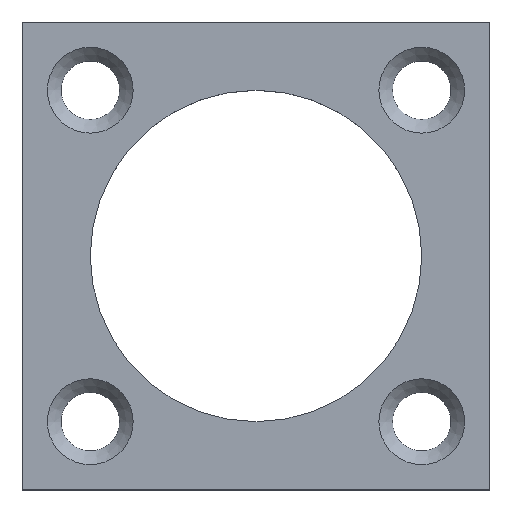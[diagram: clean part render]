
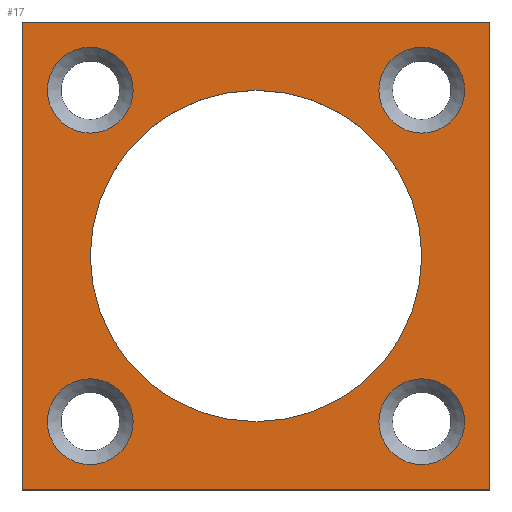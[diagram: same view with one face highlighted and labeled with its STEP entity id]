
A CAD part, top view. The second image highlights one B-rep face of the part: STEP entity #17.
In plain terms, the highlighted planar face has unit normal (0, 0, 1).
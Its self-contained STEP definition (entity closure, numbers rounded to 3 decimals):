
#17 = ADVANCED_FACE('',(#18,#29,#63,#74,#85,#96),#107,.T.);
#18 = FACE_BOUND('',#19,.T.);
#19 = EDGE_LOOP('',(#20));
#20 = ORIENTED_EDGE('',*,*,#21,.F.);
#21 = EDGE_CURVE('',#22,#22,#24,.T.);
#22 = VERTEX_POINT('',#23);
#23 = CARTESIAN_POINT('',(-6.3,-8.5,1.5));
#24 = CIRCLE('',#25,2.2);
#25 = AXIS2_PLACEMENT_3D('',#26,#27,#28);
#26 = CARTESIAN_POINT('',(-8.5,-8.5,1.5));
#27 = DIRECTION('',(0.,0.,1.));
#28 = DIRECTION('',(1.,0.,0.));
#29 = FACE_BOUND('',#30,.T.);
#30 = EDGE_LOOP('',(#31,#41,#49,#57));
#31 = ORIENTED_EDGE('',*,*,#32,.T.);
#32 = EDGE_CURVE('',#33,#35,#37,.T.);
#33 = VERTEX_POINT('',#34);
#34 = CARTESIAN_POINT('',(-12.,-12.,1.5));
#35 = VERTEX_POINT('',#36);
#36 = CARTESIAN_POINT('',(12.,-12.,1.5));
#37 = LINE('',#38,#39);
#38 = CARTESIAN_POINT('',(-12.,-12.,1.5));
#39 = VECTOR('',#40,1.);
#40 = DIRECTION('',(1.,0.,0.));
#41 = ORIENTED_EDGE('',*,*,#42,.T.);
#42 = EDGE_CURVE('',#35,#43,#45,.T.);
#43 = VERTEX_POINT('',#44);
#44 = CARTESIAN_POINT('',(12.,12.,1.5));
#45 = LINE('',#46,#47);
#46 = CARTESIAN_POINT('',(12.,-12.,1.5));
#47 = VECTOR('',#48,1.);
#48 = DIRECTION('',(0.,1.,0.));
#49 = ORIENTED_EDGE('',*,*,#50,.T.);
#50 = EDGE_CURVE('',#43,#51,#53,.T.);
#51 = VERTEX_POINT('',#52);
#52 = CARTESIAN_POINT('',(-12.,12.,1.5));
#53 = LINE('',#54,#55);
#54 = CARTESIAN_POINT('',(12.,12.,1.5));
#55 = VECTOR('',#56,1.);
#56 = DIRECTION('',(-1.,0.,0.));
#57 = ORIENTED_EDGE('',*,*,#58,.T.);
#58 = EDGE_CURVE('',#51,#33,#59,.T.);
#59 = LINE('',#60,#61);
#60 = CARTESIAN_POINT('',(-12.,12.,1.5));
#61 = VECTOR('',#62,1.);
#62 = DIRECTION('',(0.,-1.,0.));
#63 = FACE_BOUND('',#64,.T.);
#64 = EDGE_LOOP('',(#65));
#65 = ORIENTED_EDGE('',*,*,#66,.F.);
#66 = EDGE_CURVE('',#67,#67,#69,.T.);
#67 = VERTEX_POINT('',#68);
#68 = CARTESIAN_POINT('',(8.5,0.,1.5));
#69 = CIRCLE('',#70,8.5);
#70 = AXIS2_PLACEMENT_3D('',#71,#72,#73);
#71 = CARTESIAN_POINT('',(0.,0.,1.5));
#72 = DIRECTION('',(0.,0.,1.));
#73 = DIRECTION('',(1.,0.,0.));
#74 = FACE_BOUND('',#75,.T.);
#75 = EDGE_LOOP('',(#76));
#76 = ORIENTED_EDGE('',*,*,#77,.F.);
#77 = EDGE_CURVE('',#78,#78,#80,.T.);
#78 = VERTEX_POINT('',#79);
#79 = CARTESIAN_POINT('',(-6.3,8.5,1.5));
#80 = CIRCLE('',#81,2.2);
#81 = AXIS2_PLACEMENT_3D('',#82,#83,#84);
#82 = CARTESIAN_POINT('',(-8.5,8.5,1.5));
#83 = DIRECTION('',(0.,0.,1.));
#84 = DIRECTION('',(1.,0.,0.));
#85 = FACE_BOUND('',#86,.T.);
#86 = EDGE_LOOP('',(#87));
#87 = ORIENTED_EDGE('',*,*,#88,.F.);
#88 = EDGE_CURVE('',#89,#89,#91,.T.);
#89 = VERTEX_POINT('',#90);
#90 = CARTESIAN_POINT('',(10.7,8.5,1.5));
#91 = CIRCLE('',#92,2.2);
#92 = AXIS2_PLACEMENT_3D('',#93,#94,#95);
#93 = CARTESIAN_POINT('',(8.5,8.5,1.5));
#94 = DIRECTION('',(0.,0.,1.));
#95 = DIRECTION('',(1.,0.,0.));
#96 = FACE_BOUND('',#97,.T.);
#97 = EDGE_LOOP('',(#98));
#98 = ORIENTED_EDGE('',*,*,#99,.F.);
#99 = EDGE_CURVE('',#100,#100,#102,.T.);
#100 = VERTEX_POINT('',#101);
#101 = CARTESIAN_POINT('',(10.7,-8.5,1.5));
#102 = CIRCLE('',#103,2.2);
#103 = AXIS2_PLACEMENT_3D('',#104,#105,#106);
#104 = CARTESIAN_POINT('',(8.5,-8.5,1.5));
#105 = DIRECTION('',(0.,0.,1.));
#106 = DIRECTION('',(1.,0.,0.));
#107 = PLANE('',#108);
#108 = AXIS2_PLACEMENT_3D('',#109,#110,#111);
#109 = CARTESIAN_POINT('',(0.,0.,1.5));
#110 = DIRECTION('',(0.,0.,1.));
#111 = DIRECTION('',(1.,0.,0.));
